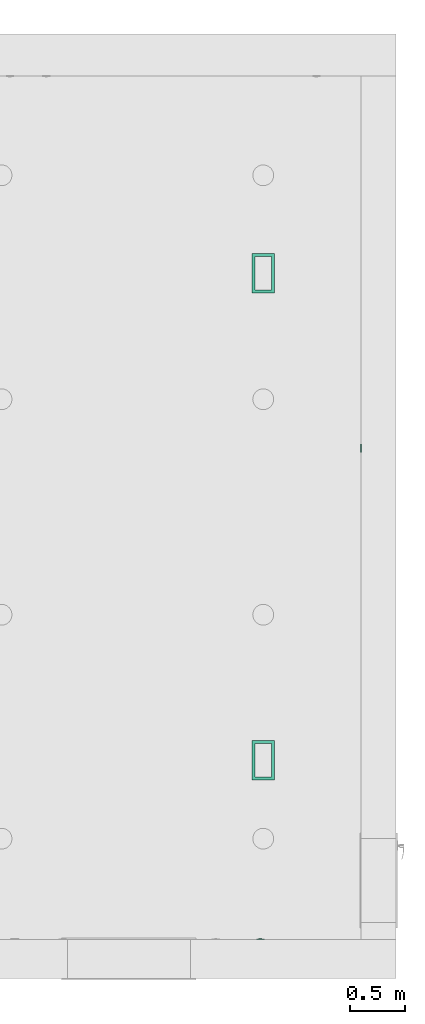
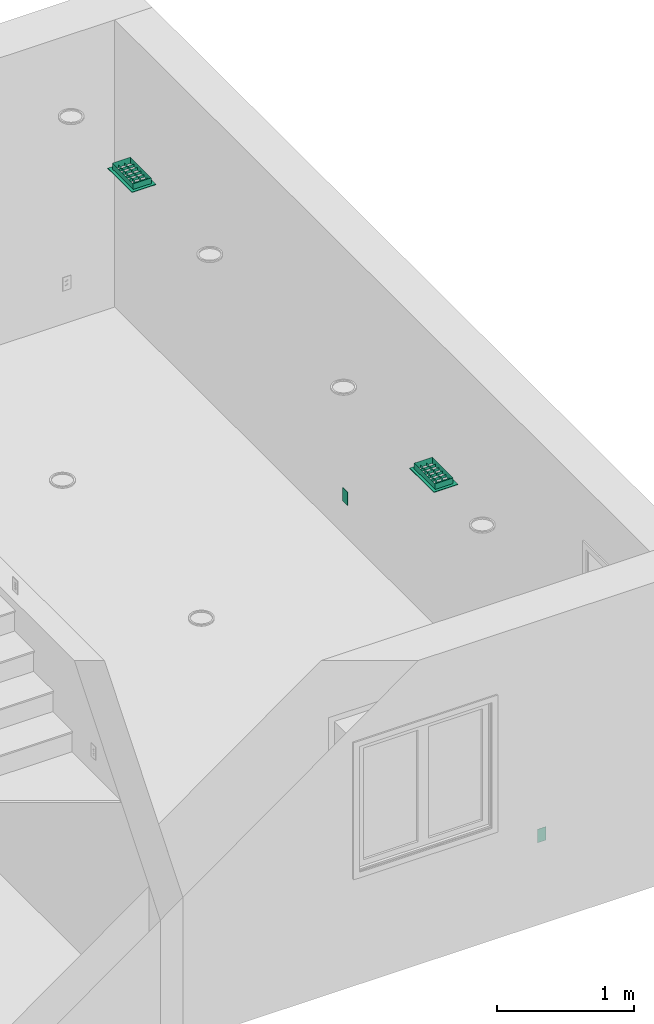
# One storey, part 14 of 48: 2 distribution flow elements, 2 flow controllers.
"""IFC2X3 building model written with IfcOpenShell, lengths in inches."""

from ifc_helpers import new_model, entity, si_unit, converted_unit, derived_unit, money_unit, direction, frame, origin_with_axes, place, context, subcontext, project, spatial, open_shell, faceted_brep, surface_model, source, transform, mapped, type_object, element, save


model = new_model("IFC2X3")

# Units and contexts
model_context = context("Model", 3, precision=0.00039370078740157, world=origin_with_axes(), true_north=direction((0.0, 1.0)))
plan_context = context("Plan", 3, precision=0.00039370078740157, world=origin_with_axes(), true_north=direction((0.0, 1.0)))
body_context = subcontext(model_context, "Body", "Model", "MODEL_VIEW")
ifc_project = project(units=[converted_unit("LENGTHUNIT", "INCH", entity("IfcPositiveLengthMeasure", 0.0254), si_unit("LENGTHUNIT", "METRE"), dimensions=[1, 0, 0, 0, 0, 0, 0]), converted_unit("AREAUNIT", "SQUARE_FOOT", entity("IfcPositiveLengthMeasure", 0.09290304), si_unit("AREAUNIT", "SQUARE_METRE"), dimensions=[2, 0, 0, 0, 0, 0, 0]), si_unit("PLANEANGLEUNIT", "RADIAN"), si_unit("SOLIDANGLEUNIT", "STERADIAN"), money_unit("USD"), converted_unit("TIMEUNIT", "Year", entity("IfcTimeMeasure", 31557600.0), si_unit("TIMEUNIT", "SECOND"), dimensions=[0, 0, 1, 0, 0, 0, 0]), si_unit("MASSUNIT", "GRAM", prefix="KILO"), si_unit("THERMODYNAMICTEMPERATUREUNIT", "DEGREE_CELSIUS"), si_unit("LUMINOUSINTENSITYUNIT", "LUMEN"), si_unit("ENERGYUNIT", "JOULE", prefix="MEGA"), derived_unit("SPECIFICHEATCAPACITYUNIT", [(si_unit("ENERGYUNIT", "JOULE"), 1), (si_unit("MASSUNIT", "GRAM", prefix="KILO"), -1), (si_unit("THERMODYNAMICTEMPERATUREUNIT", "KELVIN"), -1)])], contexts=[model_context, plan_context])

# Site, building, storey
site_placement = place(None, origin_with_axes())
site = spatial("IfcSite", under=ifc_project, at=site_placement, Name="Site", CompositionType="ELEMENT")
building_placement = place(site_placement, origin_with_axes())
building = spatial("IfcBuilding", under=site, at=building_placement, Name="Building", CompositionType="ELEMENT")
storey_placement = place(building_placement, origin_with_axes())
storey = spatial("IfcBuildingStorey", under=building, at=storey_placement, Name="First Floor", CompositionType="ELEMENT", Elevation=0.0)

# Distribution flow elements
valve_type = type_object("IfcValveType", Name="Ceiling Grille", PredefinedType="NOTDEFINED")
shared_shape_1 = source(origin_with_axes(), body_context, "Body", "SurfaceModel", [
    faceted_brep([(6.99987696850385, 3.999876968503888, -0.196850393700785), (-6.99987696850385, 3.999876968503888, -0.196850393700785), (-6.99987696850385, 3.999876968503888, 0.0), (6.99987696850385, 3.999876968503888, 0.0), (6.99987696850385, -3.999876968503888, -0.196850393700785), (-6.99987696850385, -3.999876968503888, -0.196850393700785), (6.015624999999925, 3.015624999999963, -0.196850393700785), (-6.015624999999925, 3.015624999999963, -0.196850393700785), (-6.015624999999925, -3.015624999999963, -0.196850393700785), (6.015624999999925, -3.015624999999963, -0.196850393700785), (-6.99987696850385, -3.999876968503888, 0.0), (6.99987696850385, -3.999876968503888, 0.0), (6.015624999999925, 3.015624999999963, 0.0), (6.015624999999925, -3.015624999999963, 0.0), (-6.015624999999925, -3.015624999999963, 0.0), (-6.015624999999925, 3.015624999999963, 0.0)], [[[0, 1, 2, 3]], [[0, 4, 5, 1], [6, 7, 8, 9]], [[1, 5, 10, 2]], [[3, 2, 10, 11], [12, 13, 14, 15]], [[4, 0, 3, 11]], [[5, 4, 11, 10]], [[7, 6, 12, 15]], [[8, 7, 15, 14]], [[9, 8, 14, 13]], [[6, 9, 13, 12]]]),
    surface_model("IfcShellBasedSurfaceModel", [(-5.976254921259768, 2.999999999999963, -0.196850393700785), (5.976254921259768, 2.999999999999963, -0.196850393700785), (5.976254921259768, 2.999999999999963, 0.78740157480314), (-5.976254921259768, 2.999999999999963, 0.78740157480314)], [open_shell([[[0, 1, 2, 3]]])]),
    surface_model("IfcShellBasedSurfaceModel", [(-5.976254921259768, 0.9999999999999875, -0.196850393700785), (5.976254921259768, 0.9999999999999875, -0.196850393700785), (5.976254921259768, 0.9999999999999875, 0.78740157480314), (-5.976254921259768, 0.9999999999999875, 0.78740157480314)], [open_shell([[[0, 1, 2, 3]]])]),
    surface_model("IfcShellBasedSurfaceModel", [(-5.976254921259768, -0.999999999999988, -0.196850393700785), (5.976254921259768, -0.999999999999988, -0.196850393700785), (5.976254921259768, -0.999999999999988, 0.78740157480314), (-5.976254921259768, -0.999999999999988, 0.78740157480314)], [open_shell([[[0, 1, 2, 3]]])]),
    surface_model("IfcShellBasedSurfaceModel", [(-5.976254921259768, -2.999999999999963, -0.196850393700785), (5.976254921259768, -2.999999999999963, -0.196850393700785), (5.976254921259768, -2.999999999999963, 0.78740157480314), (-5.976254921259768, -2.999999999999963, 0.78740157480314)], [open_shell([[[0, 1, 2, 3]]])]),
    surface_model("IfcShellBasedSurfaceModel", [(5.999999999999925, -2.976254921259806, -0.196850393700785), (5.999999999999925, 2.976254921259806, -0.196850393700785), (5.999999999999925, 2.976254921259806, 0.78740157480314), (5.999999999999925, -2.976254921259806, 0.78740157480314)], [open_shell([[[0, 1, 2, 3]]])]),
    surface_model("IfcShellBasedSurfaceModel", [(3.99999999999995, -2.976254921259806, -0.196850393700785), (3.999999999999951, 2.976254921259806, -0.196850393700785), (3.999999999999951, 2.976254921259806, 0.78740157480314), (3.99999999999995, -2.976254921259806, 0.78740157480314)], [open_shell([[[0, 1, 2, 3]]])]),
    surface_model("IfcShellBasedSurfaceModel", [(1.999999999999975, -2.976254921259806, -0.196850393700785), (1.999999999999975, 2.976254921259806, -0.196850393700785), (1.999999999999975, 2.976254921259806, 0.78740157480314), (1.999999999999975, -2.976254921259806, 0.78740157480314)], [open_shell([[[0, 1, 2, 3]]])]),
    surface_model("IfcShellBasedSurfaceModel", [(0.0, -2.976254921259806, -0.196850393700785), (0.0, 2.976254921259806, -0.196850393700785), (0.0, 2.976254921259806, 0.78740157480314), (0.0, -2.976254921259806, 0.78740157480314)], [open_shell([[[0, 1, 2, 3]]])]),
    surface_model("IfcShellBasedSurfaceModel", [(-1.999999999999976, -2.976254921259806, -0.196850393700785), (-1.999999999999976, 2.976254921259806, -0.196850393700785), (-1.999999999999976, 2.976254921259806, 0.78740157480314), (-1.999999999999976, -2.976254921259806, 0.78740157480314)], [open_shell([[[0, 1, 2, 3]]])]),
    surface_model("IfcShellBasedSurfaceModel", [(-3.999999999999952, -2.976254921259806, -0.196850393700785), (-3.999999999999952, 2.976254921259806, -0.196850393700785), (-3.999999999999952, 2.976254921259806, 0.78740157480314), (-3.999999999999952, -2.976254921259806, 0.78740157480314)], [open_shell([[[0, 1, 2, 3]]])]),
    surface_model("IfcShellBasedSurfaceModel", [(-5.999999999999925, -2.976254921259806, -0.196850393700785), (-5.999999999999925, 2.976254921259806, -0.196850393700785), (-5.999999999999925, 2.976254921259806, 0.78740157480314), (-5.999999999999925, -2.976254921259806, 0.78740157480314)], [open_shell([[[0, 1, 2, 3]]])]),
    surface_model("IfcShellBasedSurfaceModel", [(6.015624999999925, -3.015624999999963, 0.0), (6.015624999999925, 3.015624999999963, 0.0), (6.015624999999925, 3.015624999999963, 1.999999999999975), (6.015624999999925, -3.015624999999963, 1.999999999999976), (-6.015624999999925, 3.015624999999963, 0.0), (-6.015624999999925, 3.015624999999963, 1.999999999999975), (-6.015624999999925, -3.015624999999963, 0.0), (-6.015624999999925, -3.015624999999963, 1.999999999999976)], [open_shell([[[0, 1, 2, 3]], [[1, 4, 5, 2]], [[6, 0, 3, 7]], [[4, 6, 7, 5]]])]),
])
for number, where, z_axis, x_axis, name in (
    (1, (380.4999999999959, 252.0016697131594, 100.9999999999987), (0.0, 0.0, 1.0), (0.0, 1.0, 0.0), "FU - 013"),
    (2, (380.4999999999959, 78.00130061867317, 100.9999999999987), (0.0, 0.0, 1.0), (0.0, 1.0, 0.0), "FU - 013"),
):
    element("IfcDistributionFlowElement", number, at=place(storey_placement, frame(where, z_axis=z_axis, x_axis=x_axis)), inside=storey, type_object=valve_type, Name=name, context=body_context, shape_type="MappedRepresentation", body=[
        mapped(shared_shape_1, transform((0.0, 0.0, 0.0))),
    ])

# Flow controllers
switching_device_type = type_object("IfcSwitchingDeviceType", Name="Outlet 1 US", PredefinedType="NOTDEFINED")
shared_shape_2 = source(origin_with_axes(), body_context, "Body", "Brep", [
    faceted_brep([(0.39370078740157, -0.03444881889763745, -1.18110236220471), (0.5436477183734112, -0.03444881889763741, -0.7086614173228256), (0.5436477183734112, -0.2165354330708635, -0.7086614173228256), (0.39370078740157, -0.2165354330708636, -1.18110236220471), (-0.3937007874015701, -0.03444881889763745, -1.181102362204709), (-0.543647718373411, -0.03444881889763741, -0.7086614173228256), (-0.39370078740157, -0.03444881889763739, -0.2362204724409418), (0.3937007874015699, -0.03444881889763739, -0.2362204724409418), (-0.196850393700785, -0.03444881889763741, -0.7086614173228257), (-0.196850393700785, -0.0344488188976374, -0.4724409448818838), (-0.275590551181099, -0.0344488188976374, -0.4724409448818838), (-0.275590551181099, -0.03444881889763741, -0.7086614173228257), (0.196850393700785, -0.03444881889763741, -0.7086614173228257), (0.275590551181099, -0.03444881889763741, -0.7086614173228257), (0.275590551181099, -0.0344488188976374, -0.4724409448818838), (0.196850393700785, -0.0344488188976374, -0.4724409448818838), (-0.078740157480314, -0.03444881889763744, -1.102362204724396), (0.078740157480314, -0.03444881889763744, -1.102362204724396), (0.078740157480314, -0.03444881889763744, -1.023622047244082), (0.06819097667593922, -0.03444881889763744, -0.9842519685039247), (0.03937007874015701, -0.03444881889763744, -0.9554310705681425), (0.0, -0.03444881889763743, -0.9448818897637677), (-0.03937007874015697, -0.03444881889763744, -0.9554310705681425), (-0.06819097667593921, -0.03444881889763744, -0.9842519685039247), (-0.078740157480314, -0.03444881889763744, -1.023622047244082), (0.3937007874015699, -0.2165354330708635, -0.2362204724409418), (-0.39370078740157, -0.2165354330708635, -0.2362204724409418), (-0.543647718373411, -0.2165354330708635, -0.7086614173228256), (-0.3937007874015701, -0.2165354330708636, -1.181102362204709), (-0.196850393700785, -0.2165354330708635, -0.7086614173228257), (-0.275590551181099, -0.2165354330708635, -0.7086614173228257), (-0.275590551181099, -0.2165354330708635, -0.4724409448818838), (-0.196850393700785, -0.2165354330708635, -0.4724409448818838), (0.196850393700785, -0.2165354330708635, -0.7086614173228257), (0.196850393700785, -0.2165354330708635, -0.4724409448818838), (0.275590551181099, -0.2165354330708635, -0.4724409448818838), (0.275590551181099, -0.2165354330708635, -0.7086614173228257), (-0.078740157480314, -0.2165354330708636, -1.102362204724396), (-0.078740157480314, -0.2165354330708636, -1.023622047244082), (-0.06819097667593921, -0.2165354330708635, -0.9842519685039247), (-0.03937007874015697, -0.2165354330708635, -0.9554310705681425), (0.0, -0.2165354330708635, -0.9448818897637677), (0.03937007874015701, -0.2165354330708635, -0.9554310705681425), (0.06819097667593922, -0.2165354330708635, -0.9842519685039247), (0.078740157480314, -0.2165354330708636, -1.023622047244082), (0.078740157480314, -0.2165354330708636, -1.102362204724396)], [[[0, 1, 2, 3]], [[0, 4, 5, 6, 7, 1], [8, 9, 10, 11], [12, 13, 14, 15], [16, 17, 18, 19, 20, 21, 22, 23, 24]], [[1, 7, 25, 2]], [[3, 2, 25, 26, 27, 28], [29, 30, 31, 32], [33, 34, 35, 36], [37, 38, 39, 40, 41, 42, 43, 44, 45]], [[4, 0, 3, 28]], [[5, 4, 28, 27]], [[6, 5, 27, 26]], [[7, 6, 26, 25]], [[9, 8, 29, 32]], [[10, 9, 32, 31]], [[11, 10, 31, 30]], [[8, 11, 30, 29]], [[13, 12, 33, 36]], [[14, 13, 36, 35]], [[15, 14, 35, 34]], [[12, 15, 34, 33]], [[17, 16, 37, 45]], [[18, 17, 45, 44]], [[19, 18, 44, 43]], [[20, 19, 43, 42]], [[21, 20, 42, 41]], [[22, 21, 41, 40]], [[23, 22, 40, 39]], [[24, 23, 39, 38]], [[16, 24, 38, 37]]]),
    faceted_brep([(0.39370078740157, -0.03444881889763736, 0.2362204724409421), (0.5436477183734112, -0.03444881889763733, 0.7086614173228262), (0.5436477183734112, -0.2165354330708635, 0.7086614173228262), (0.39370078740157, -0.2165354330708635, 0.2362204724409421), (-0.3937007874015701, -0.03444881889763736, 0.2362204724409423), (-0.543647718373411, -0.03444881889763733, 0.7086614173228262), (-0.39370078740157, -0.0344488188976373, 1.18110236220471), (0.3937007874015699, -0.0344488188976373, 1.18110236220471), (-0.196850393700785, -0.03444881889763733, 0.7086614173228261), (-0.196850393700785, -0.03444881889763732, 0.944881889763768), (-0.275590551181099, -0.03444881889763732, 0.944881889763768), (-0.275590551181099, -0.03444881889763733, 0.7086614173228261), (0.196850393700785, -0.03444881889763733, 0.7086614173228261), (0.275590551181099, -0.03444881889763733, 0.7086614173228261), (0.275590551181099, -0.03444881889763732, 0.944881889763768), (0.196850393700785, -0.03444881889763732, 0.944881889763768), (-0.078740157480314, -0.03444881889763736, 0.3149606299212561), (0.078740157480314, -0.03444881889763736, 0.3149606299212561), (0.078740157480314, -0.03444881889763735, 0.3937007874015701), (0.06819097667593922, -0.03444881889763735, 0.4330708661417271), (0.03937007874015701, -0.03444881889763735, 0.4618917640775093), (0.0, -0.03444881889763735, 0.472440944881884), (-0.03937007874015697, -0.03444881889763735, 0.4618917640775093), (-0.06819097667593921, -0.03444881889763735, 0.4330708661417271), (-0.078740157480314, -0.03444881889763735, 0.3937007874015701), (0.3937007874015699, -0.2165354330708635, 1.18110236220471), (-0.39370078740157, -0.2165354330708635, 1.18110236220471), (-0.543647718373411, -0.2165354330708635, 0.7086614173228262), (-0.3937007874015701, -0.2165354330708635, 0.2362204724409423), (-0.196850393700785, -0.2165354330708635, 0.7086614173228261), (-0.275590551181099, -0.2165354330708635, 0.7086614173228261), (-0.275590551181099, -0.2165354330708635, 0.944881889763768), (-0.196850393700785, -0.2165354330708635, 0.944881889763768), (0.196850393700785, -0.2165354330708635, 0.7086614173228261), (0.196850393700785, -0.2165354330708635, 0.944881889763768), (0.275590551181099, -0.2165354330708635, 0.944881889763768), (0.275590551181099, -0.2165354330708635, 0.7086614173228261), (-0.078740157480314, -0.2165354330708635, 0.3149606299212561), (-0.078740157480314, -0.2165354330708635, 0.3937007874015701), (-0.06819097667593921, -0.2165354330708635, 0.4330708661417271), (-0.03937007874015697, -0.2165354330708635, 0.4618917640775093), (0.0, -0.2165354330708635, 0.472440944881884), (0.03937007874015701, -0.2165354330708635, 0.4618917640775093), (0.06819097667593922, -0.2165354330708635, 0.4330708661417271), (0.078740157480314, -0.2165354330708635, 0.3937007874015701), (0.078740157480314, -0.2165354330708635, 0.3149606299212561)], [[[0, 1, 2, 3]], [[0, 4, 5, 6, 7, 1], [8, 9, 10, 11], [12, 13, 14, 15], [16, 17, 18, 19, 20, 21, 22, 23, 24]], [[1, 7, 25, 2]], [[3, 2, 25, 26, 27, 28], [29, 30, 31, 32], [33, 34, 35, 36], [37, 38, 39, 40, 41, 42, 43, 44, 45]], [[4, 0, 3, 28]], [[5, 4, 28, 27]], [[6, 5, 27, 26]], [[7, 6, 26, 25]], [[9, 8, 29, 32]], [[10, 9, 32, 31]], [[11, 10, 31, 30]], [[8, 11, 30, 29]], [[13, 12, 33, 36]], [[14, 13, 36, 35]], [[15, 14, 35, 34]], [[12, 15, 34, 33]], [[17, 16, 37, 45]], [[18, 17, 45, 44]], [[19, 18, 44, 43]], [[20, 19, 43, 42]], [[21, 20, 42, 41]], [[22, 21, 41, 40]], [[23, 22, 40, 39]], [[24, 23, 39, 38]], [[16, 24, 38, 37]]]),
    faceted_brep([(-1.343503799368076, -0.1377952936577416, -2.327755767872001), (1.343503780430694, -0.1377952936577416, -2.327755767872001), (1.343503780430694, -0.1377952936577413, 2.327755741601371), (-1.343503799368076, -0.1377952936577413, 2.327755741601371), (0.39370078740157, -0.1377952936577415, -1.18110236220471), (-0.3937007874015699, -0.1377952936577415, -1.181102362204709), (-0.5436477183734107, -0.1377952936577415, -0.7086614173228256), (-0.39370078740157, -0.1377952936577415, -0.2362204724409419), (0.3937007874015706, -0.1377952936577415, -0.2362204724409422), (0.5436477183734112, -0.1377952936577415, -0.7086614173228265), (-0.39370078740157, -0.1377952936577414, 1.18110236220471), (0.3937007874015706, -0.1377952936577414, 1.18110236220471), (0.5436477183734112, -0.1377952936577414, 0.7086614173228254), (0.39370078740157, -0.1377952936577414, 0.236220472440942), (-0.3937007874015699, -0.1377952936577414, 0.2362204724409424), (-0.5436477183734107, -0.1377952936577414, 0.7086614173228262), (-1.352419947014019, -0.1366214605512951, -2.336671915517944), (1.352419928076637, -0.1366214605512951, -2.336671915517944), (1.352419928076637, -0.1366214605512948, 2.336671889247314), (-1.352419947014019, -0.1366214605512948, 2.336671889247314), (0.39370078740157, -0.03444881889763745, -1.18110236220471), (-0.3937007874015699, -0.03444881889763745, -1.181102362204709), (-0.5436477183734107, -0.03444881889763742, -0.7086614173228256), (-0.39370078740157, -0.03444881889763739, -0.2362204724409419), (0.3937007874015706, -0.03444881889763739, -0.2362204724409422), (0.5436477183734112, -0.03444881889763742, -0.7086614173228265), (-0.39370078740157, -0.0344488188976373, 1.18110236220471), (0.3937007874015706, -0.0344488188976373, 1.18110236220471), (0.5436477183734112, -0.03444881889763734, 0.7086614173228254), (0.39370078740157, -0.03444881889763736, 0.236220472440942), (-0.3937007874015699, -0.03444881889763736, 0.2362204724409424), (-0.5436477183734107, -0.03444881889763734, 0.7086614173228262), (-1.36786294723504, -0.1277054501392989, -2.352114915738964), (1.367862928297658, -0.1277054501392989, -2.352114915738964), (1.367862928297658, -0.1277054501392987, 2.352114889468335), (-1.36786294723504, -0.1277054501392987, 2.352114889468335), (-1.376778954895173, -0.1122624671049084, -2.361030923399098), (1.376778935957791, -0.1122624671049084, -2.361030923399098), (1.376778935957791, -0.1122624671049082, 2.361030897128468), (-1.376778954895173, -0.1122624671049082, 2.361030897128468), (-1.377952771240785, -0.1033464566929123, -2.362204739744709), (1.377952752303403, -0.1033464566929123, -2.362204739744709), (1.377952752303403, -0.103346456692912, 2.36220471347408), (-1.377952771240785, -0.103346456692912, 2.36220471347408), (-1.377952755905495, 0.0, -2.36220472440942), (1.377952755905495, 0.0, -2.36220472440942), (1.377952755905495, 0.0, 2.36220472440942), (-1.377952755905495, 0.0, 2.36220472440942)], [[[0, 1, 2, 3], [4, 5, 6, 7, 8, 9], [10, 11, 12, 13, 14, 15]], [[1, 0, 16, 17]], [[2, 1, 17, 18]], [[3, 2, 18, 19]], [[0, 3, 19, 16]], [[4, 20, 21, 5]], [[5, 21, 22, 6]], [[6, 22, 23, 7]], [[7, 23, 24, 8]], [[8, 24, 25, 9]], [[9, 25, 20, 4]], [[11, 10, 26, 27]], [[12, 11, 27, 28]], [[13, 12, 28, 29]], [[14, 13, 29, 30]], [[15, 14, 30, 31]], [[10, 15, 31, 26]], [[17, 16, 32, 33]], [[18, 17, 33, 34]], [[19, 18, 34, 35]], [[16, 19, 35, 32]], [[22, 21, 20, 25, 24, 23]], [[28, 27, 26, 31, 30, 29]], [[33, 32, 36, 37]], [[34, 33, 37, 38]], [[35, 34, 38, 39]], [[32, 35, 39, 36]], [[37, 36, 40, 41]], [[38, 37, 41, 42]], [[39, 38, 42, 43]], [[36, 39, 43, 40]], [[41, 40, 44, 45]], [[42, 41, 45, 46]], [[43, 42, 46, 47]], [[40, 43, 47, 44]], [[46, 45, 44, 47]]]),
])
flow_controller_1_placement = place(storey_placement, frame((379.4999999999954, 14.00000000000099, 13.99999999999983), z_axis=(0.0, 0.0, 1.0), x_axis=(-1.0, 0.0, 0.0)))
element("IfcFlowController", 3, at=flow_controller_1_placement, inside=storey, type_object=switching_device_type, Name="FU - 029", context=body_context, shape_type="MappedRepresentation", body=[
    mapped(shared_shape_2, transform((0.0, 0.0, 0.0))),
])
shared_shape_3 = source(origin_with_axes(), body_context, "Body", "Brep", [
    faceted_brep([(0.39370078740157, -0.0344488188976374, -0.472440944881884), (0.3937007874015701, -0.03444881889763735, 0.472440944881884), (0.3937007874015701, -0.2165354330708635, 0.472440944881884), (0.39370078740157, -0.2165354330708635, -0.472440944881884), (-0.3937007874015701, -0.0344488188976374, -0.4724409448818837), (-0.39370078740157, -0.03444881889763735, 0.472440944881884), (-0.39370078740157, -0.2165354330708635, 0.472440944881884), (-0.3937007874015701, -0.2165354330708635, -0.4724409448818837)], [[[0, 1, 2, 3]], [[0, 4, 5, 1]], [[1, 5, 6, 2]], [[3, 2, 6, 7]], [[4, 0, 3, 7]], [[5, 4, 7, 6]]]),
    faceted_brep([(1.377952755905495, -0.1377952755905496, -2.36220472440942), (1.377952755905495, -0.1377952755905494, 2.36220472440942), (-1.377952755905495, -0.1377952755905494, 2.36220472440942), (-1.377952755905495, -0.1377952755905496, -2.36220472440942), (-0.3937007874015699, -0.1377952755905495, -0.4724409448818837), (-0.39370078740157, -0.1377952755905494, 0.4724409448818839), (0.3937007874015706, -0.1377952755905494, 0.4724409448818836), (0.39370078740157, -0.1377952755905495, -0.472440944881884), (1.377952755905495, 0.0, 2.36220472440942), (1.377952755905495, 0.0, -2.36220472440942), (-1.377952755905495, 0.0, 2.36220472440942), (-1.377952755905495, 0.0, -2.36220472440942), (-0.3937007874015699, -0.0344488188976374, -0.4724409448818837), (-0.39370078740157, -0.03444881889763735, 0.4724409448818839), (0.3937007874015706, -0.03444881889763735, 0.4724409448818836), (0.39370078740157, -0.0344488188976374, -0.472440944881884)], [[[0, 1, 2, 3], [4, 5, 6, 7]], [[8, 1, 0, 9]], [[10, 2, 1, 8]], [[11, 3, 2, 10]], [[9, 0, 3, 11]], [[5, 4, 12, 13]], [[6, 5, 13, 14]], [[7, 6, 14, 15]], [[4, 7, 15, 12]], [[10, 8, 9, 11]], [[14, 13, 12, 15]]]),
])
flow_controller_2_placement = place(storey_placement, frame((415.4999999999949, 189.4999999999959, 13.99999999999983), z_axis=(0.0, 0.0, 1.0), x_axis=(0.0, -1.0, 0.0)))
element("IfcFlowController", 4, at=flow_controller_2_placement, inside=storey, type_object=switching_device_type, Name="OBJ-05", context=body_context, shape_type="MappedRepresentation", body=[
    mapped(shared_shape_3, transform((0.0, 0.0, 0.0))),
])

save(model, "model.ifc")
